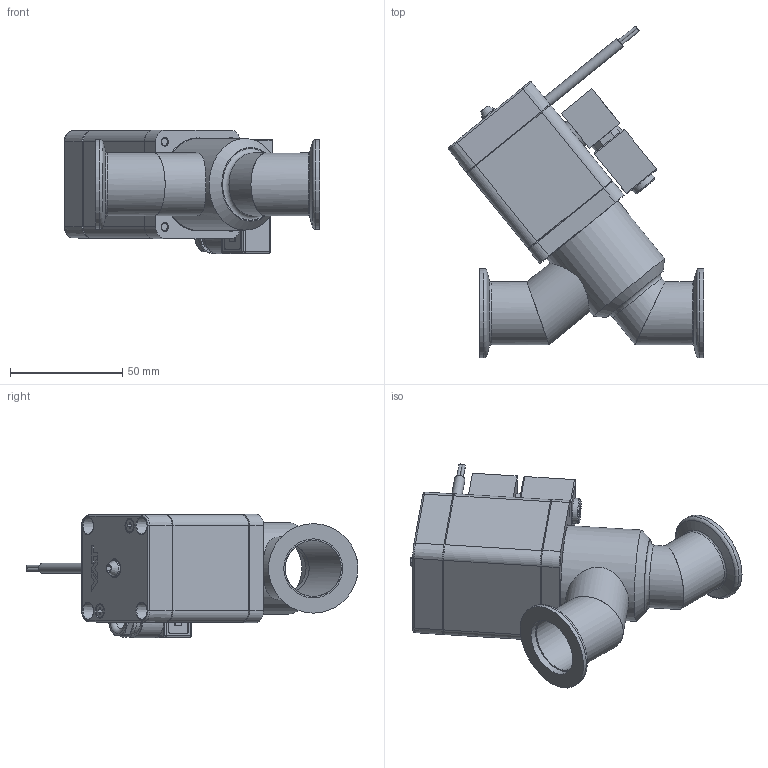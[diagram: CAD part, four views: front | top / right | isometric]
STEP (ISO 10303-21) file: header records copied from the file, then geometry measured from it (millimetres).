
FILE_DESCRIPTION(/* description */ (''),/* implementation_level */ '2;1');
FILE_NAME(/* name */ '1373368816_203.stp',/* time_stamp */ '2013-11-06T08:59:23+01:00',/* author */ (''),/* organization */ (''),/* preprocessor_version */ 'ST-DEVELOPER v11',/* originating_system */ 'SIEMENS PLM Software NX 7.5',/* authorisation */ '');
FILE_SCHEMA (('AP203_CONFIGURATION_CONTROLLED_3D_DESIGN_OF_MECHANICAL_PARTS_AND_ASSEMBLIES_MIM_LF'));
Length unit declared in the file: millimetre
Products named in the file (18): 257238.5; 245689.5; 257237.6; 264931.2; 264932.2; 239888_6.1; 233359; 236204_1.1; 467882; 437235; 245188.1; 239359.4; 243878.2; 308451.2; 264933.4; 402922; N-8501-400.2_MODELNX-ARRAGMNTArrangement 1; 716160
Assembly tree (21 placements, depth 3):
  716160
    308451.2
    243878.2
    239359.4
    N-8501-400.2_MODELNX-ARRAGMNTArrangement 1
      437235
      467882
    402922
      236204_1.1  x2
      233359
      239888_6.1
    245188.1  x4
    264933.4
      264932.2
      264931.2
      257237.6
      245689.5
      257238.5
Bounding box: 113.97 x 148.04 x 55.2 mm (x, y, z)
Volume: 132650.5 mm3; surface area: 89787.5 mm2
Topology: 26 solids, 27 shells, 802 faces, 1934 edges, 1258 vertices
Faces by surface type: plane 463, cylinder 200, cone 94, bspline 22, torus 18, sphere 5
Full cylindrical faces by diameter (mm): 1.4 x8, 2 x1, 2.5 x6, 2.8 x1, 2.95 x1, 3 x8, 3.26 x4, 3.3 x4, 4 x12, 4.2 x1, 4.22 x1, 4.4 x1, 4.5 x4, 4.6 x1, 4.7 x3, 5 x4, 5.1 x1, 5.5 x1, 5.6 x2, 6 x3, 7 x4, 7.4 x2, 7.6 x1, 7.9 x1, 7.975 x3, 8 x6, 8.012 x2, 9.201 x1, 9.25 x1, 9.578 x1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
Entity records: 25283 total; most frequent: CARTESIAN_POINT 5101, DIRECTION 3446, ORIENTED_EDGE 3106, EDGE_CURVE 1553, AXIS2_PLACEMENT_3D 1262, VERTEX_POINT 1123, EDGE_LOOP 1041, LINE 922
